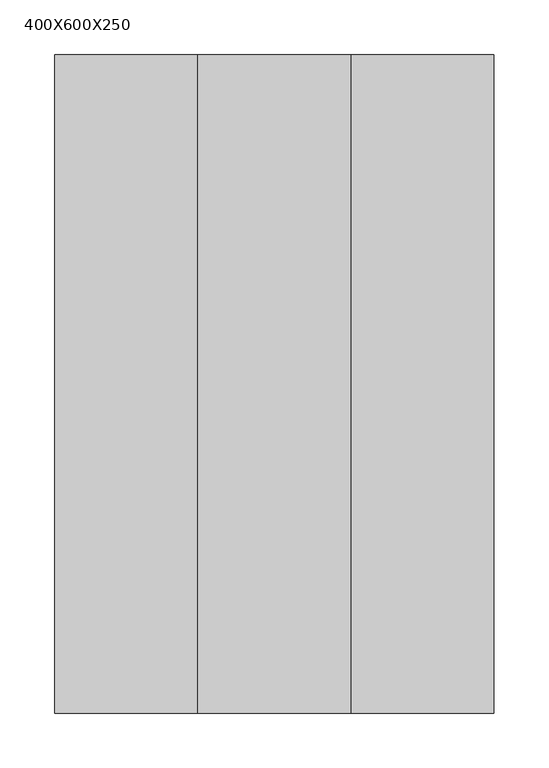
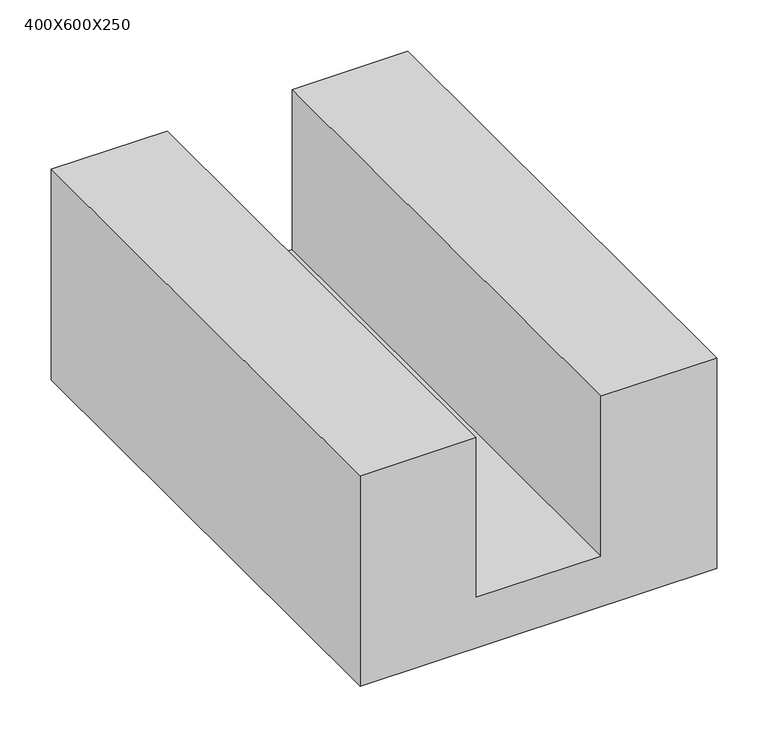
"""IFC4 building model written with IfcOpenShell, lengths in millimetres: plate geometry, GASBETON Evolution Canalette : 400X600X250."""

from ifc_helpers import new_model, si_unit, frame, origin, place, context, project, spatial, polyline, outline, extrude, source, transform, mapped, element, save


def plate_400x600x250_3b991037(model_context):
    return source(origin(), model_context, "Body", "SweptSolid", [
        extrude(outline(polyline([(0.0, -200.0), (0.0, 200.0), (250.0, 200.0), (250.0, 70.0), (60.0, 70.0), (60.0, -70.0), (250.0, -70.0), (250.0, -200.0), (0.0, -200.0)])), frame((0.0, -300.0, 0.0), z_axis=(0.0, 1.0, 0.0), x_axis=(0.0, 0.0, 1.0)), (0.0, 0.0, 1.0), 600.0),
    ])


if __name__ == "__main__":
    model = new_model("IFC4")
    model_context = context("Model", 3, world=origin())
    ifc_project = project(units=[si_unit("LENGTHUNIT", "METRE", prefix="MILLI")], contexts=[model_context])
    site = spatial("IfcSite", under=ifc_project)
    building = spatial("IfcBuilding", under=site)
    placement = place(None, origin())
    plate_400x600x250_shape = plate_400x600x250_3b991037(model_context)
    element("IfcPlate", 1, ObjectType="GASBETON Evolution Canalette : 400X600X250", at=placement, inside=building, context=model_context, shape_type="MappedRepresentation", body=[
        mapped(plate_400x600x250_shape, transform((0.0, 0.0, 0.0), x_axis=(1.0, 0.0, 0.0), y_axis=(0.0, 1.0, 0.0), z_axis=(0.0, 0.0, 1.0))),
    ])
    save(model, "model.ifc")
